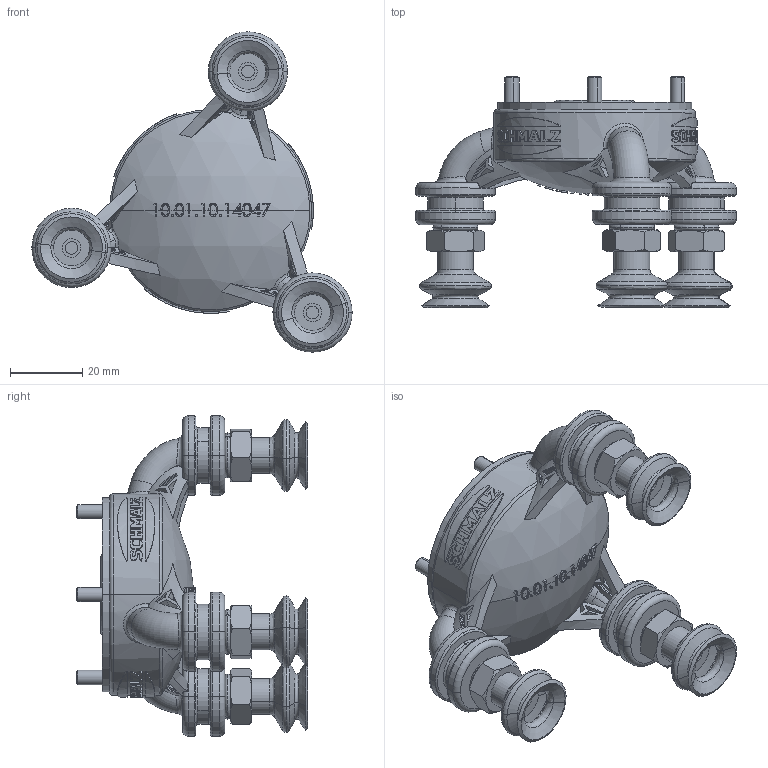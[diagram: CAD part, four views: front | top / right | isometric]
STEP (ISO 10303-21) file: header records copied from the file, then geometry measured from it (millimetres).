
FILE_DESCRIPTION (( 'STEP AP214' ), '1' );
FILE_NAME ('10.01.10.14042K_0_AA.STEP', '2022-11-15T09:26:22', ( '' ), ( '' ), 'SwSTEP 2.0', 'SolidWorks 2021', '' );
FILE_SCHEMA (( 'AUTOMOTIVE_DESIGN' ));
Length unit declared in the file: millimetre
Products named in the file (1): 10.01.10.14042K_0_AA
Bounding box: 88.92 x 64.2 x 88.92 mm (x, y, z)
Volume: 49732.7 mm3; surface area: 35582.9 mm2
Topology: 12 solids, 13 shells, 1239 faces, 3328 edges, 2142 vertices
Faces by surface type: bspline 569, plane 240, torus 151, cylinder 131, cone 99, sphere 49
Entity records: 69022 total; most frequent: CARTESIAN_POINT 42748, ORIENTED_EDGE 6652, DIRECTION 3571, EDGE_CURVE 3326, VERTEX_POINT 2141, B_SPLINE_CURVE_WITH_KNOTS 1952, AXIS2_PLACEMENT_3D 1544, EDGE_LOOP 1327
